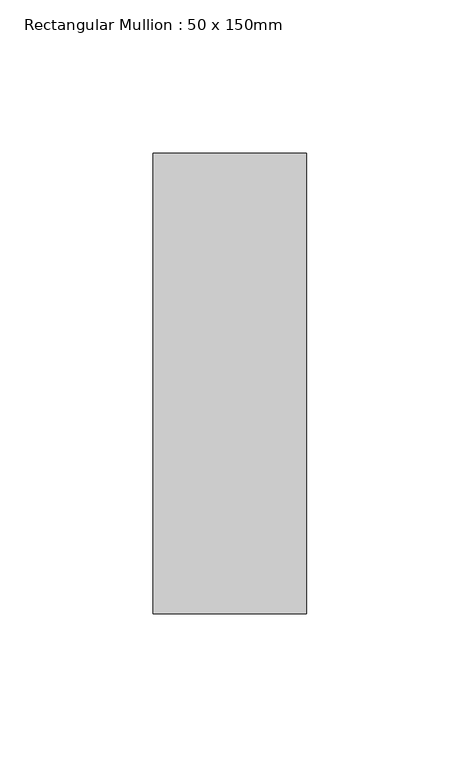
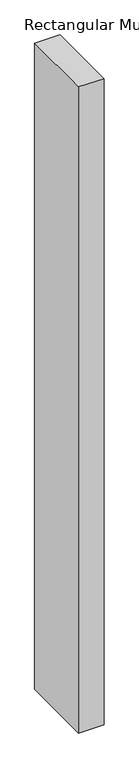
"""IFC4 building model written with IfcOpenShell, lengths in millimetres: member geometry, Rectangular Mullion : 50 x 150mm."""

from ifc_helpers import new_model, si_unit, frame, origin, place, context, project, spatial, polyline, outline, extrude, source, transform, mapped, element, save


def rectangular_mullion_50_x_150mm_00ccb73c(model_context):
    return source(origin(), model_context, "Body", "SweptSolid", [
        extrude(outline(polyline([(25.0, 75.0), (25.0, -75.0), (-25.0, -75.0), (-25.0, 75.0), (25.0, 75.0)])), frame((0.0, 0.0, -1347.4000001), z_axis=(0.0, 0.0, 1.0), x_axis=(1.0, 0.0, 0.0)), (0.0, 0.0, 1.0), 1347.4000001),
    ])


if __name__ == "__main__":
    model = new_model("IFC4")
    model_context = context("Model", 3, world=origin())
    ifc_project = project(units=[si_unit("LENGTHUNIT", "METRE", prefix="MILLI")], contexts=[model_context])
    site = spatial("IfcSite", under=ifc_project)
    building = spatial("IfcBuilding", under=site)
    placement = place(None, origin())
    rectangular_mullion_50_x_150mm_shape = rectangular_mullion_50_x_150mm_00ccb73c(model_context)
    element("IfcMember", 1, ObjectType="Rectangular Mullion : 50 x 150mm", at=placement, inside=building, context=model_context, shape_type="MappedRepresentation", body=[
        mapped(rectangular_mullion_50_x_150mm_shape, transform((0.0, 0.0, 0.0), x_axis=(1.0, 0.0, 0.0), y_axis=(0.0, 1.0, 0.0), z_axis=(0.0, 0.0, 1.0))),
    ])
    save(model, "model.ifc")
